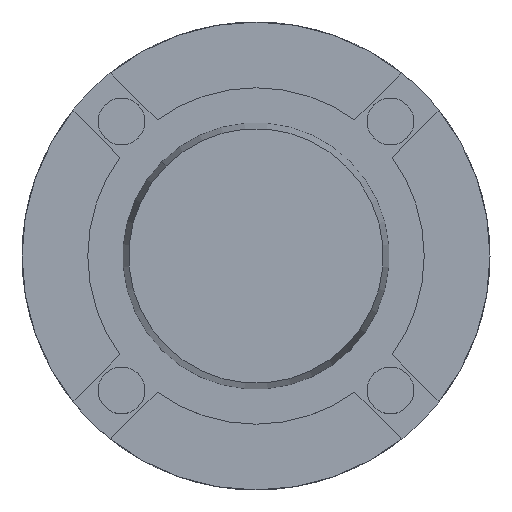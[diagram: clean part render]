
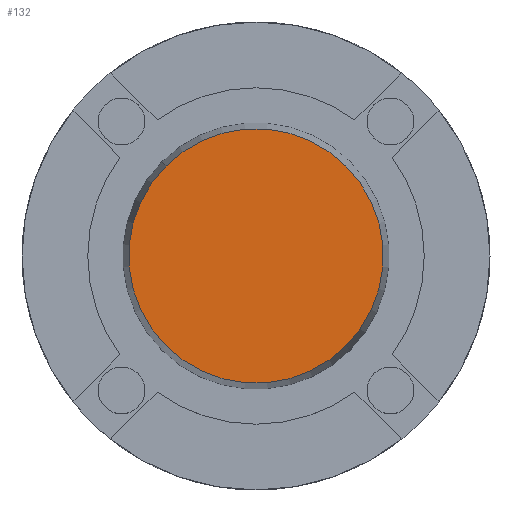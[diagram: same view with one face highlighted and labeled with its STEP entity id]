
A CAD part, top view. The second image highlights one B-rep face of the part: STEP entity #132.
In plain terms, the highlighted planar face has unit normal (0, 0, 1) as drawn and (1, 0, 0) by its records, which use the part's own axes.
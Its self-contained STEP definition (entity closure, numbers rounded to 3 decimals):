
#132=ADVANCED_FACE('',(#167),#684,.T.);
#167=FACE_OUTER_BOUND('',#207,.T.);
#207=EDGE_LOOP('',(#308,#309));
#308=ORIENTED_EDGE('',*,*,#449,.F.);
#309=ORIENTED_EDGE('',*,*,#452,.F.);
#449=EDGE_CURVE('',#645,#647,#500,.T.);
#452=EDGE_CURVE('',#647,#645,#502,.T.);
#500=TRIMMED_CURVE($,#540,(#1302),(#1303),.T.,.CARTESIAN.);
#502=TRIMMED_CURVE($,#542,(#1310),(#1311),.T.,.CARTESIAN.);
#540=CIRCLE('',#925,43.5);
#542=CIRCLE('',#927,43.5);
#645=VERTEX_POINT('',#1164);
#647=VERTEX_POINT('',#1166);
#684=PLANE('',#885);
#885=AXIS2_PLACEMENT_3D('',#1093,#964,$);
#925=AXIS2_PLACEMENT_3D($,#1301,#1022,#1023);
#927=AXIS2_PLACEMENT_3D($,#1309,#1026,#1027);
#964=DIRECTION('',(1.,0.,0.));
#1022=DIRECTION('',(-1.,0.,0.));
#1023=DIRECTION('',(0.,0.,1.));
#1026=DIRECTION('',(-1.,0.,0.));
#1027=DIRECTION('',(0.,0.,-1.));
#1093=CARTESIAN_POINT('',(18.5,-52.26,-52.26));
#1164=CARTESIAN_POINT('',(18.5,0.,43.5));
#1166=CARTESIAN_POINT('',(18.5,0.,-43.5));
#1301=CARTESIAN_POINT('',(18.5,0.,0.));
#1302=CARTESIAN_POINT('',(18.5,0.,43.5));
#1303=CARTESIAN_POINT('',(18.5,0.,-43.5));
#1309=CARTESIAN_POINT('',(18.5,0.,0.));
#1310=CARTESIAN_POINT('',(18.5,0.,-43.5));
#1311=CARTESIAN_POINT('',(18.5,0.,43.5));
